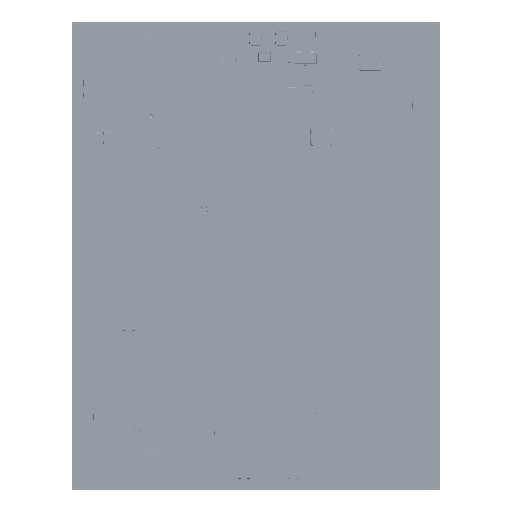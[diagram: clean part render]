
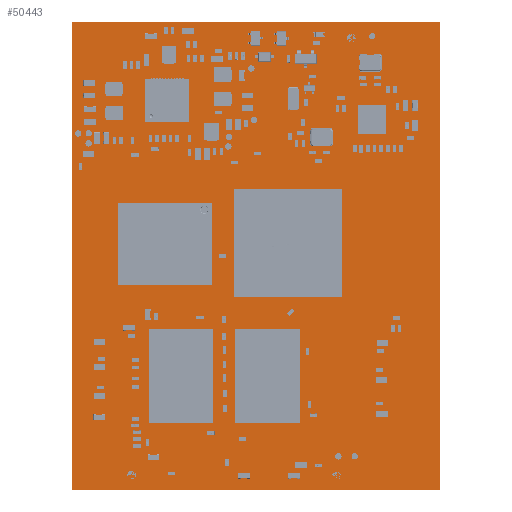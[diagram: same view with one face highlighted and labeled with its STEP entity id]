
A CAD part, top view. The second image highlights one B-rep face of the part: STEP entity #50443.
In plain terms, the highlighted planar face has unit normal (0, 0, 1).
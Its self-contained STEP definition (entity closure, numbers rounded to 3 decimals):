
#30057=FACE_OUTER_BOUND($,#35232,.F.);
#35232=EDGE_LOOP($,(#55668,#55669,#55670,#55671));
#40889=AXIS2_PLACEMENT_3D($,#140353,#119813,$);
#47494=PLANE($,#40889);
#50443=ADVANCED_FACE($,(#30057),#47494,.T.);
#55668=ORIENTED_EDGE($,*,*,#81082,.T.);
#55669=ORIENTED_EDGE($,*,*,#81083,.T.);
#55670=ORIENTED_EDGE($,*,*,#81084,.T.);
#55671=ORIENTED_EDGE($,*,*,#81085,.T.);
#81082=EDGE_CURVE($,#109868,#109869,#101830,.T.);
#81083=EDGE_CURVE($,#109869,#109870,#101831,.T.);
#81084=EDGE_CURVE($,#109870,#109871,#101832,.T.);
#81085=EDGE_CURVE($,#109871,#109868,#101833,.T.);
#93801=VECTOR($,#119845,65.005);
#93802=VECTOR($,#119846,50.995);
#93803=VECTOR($,#119847,65.005);
#93804=VECTOR($,#119848,50.995);
#101830=LINE($,#140352,#93801);
#101831=LINE($,#140353,#93802);
#101832=LINE($,#140354,#93803);
#101833=LINE($,#140355,#93804);
#109868=VERTEX_POINT($,#140352);
#109869=VERTEX_POINT($,#140353);
#109870=VERTEX_POINT($,#140354);
#109871=VERTEX_POINT($,#140355);
#119813=DIRECTION($,(0.,0.,1.));
#119845=DIRECTION($,(0.,-1.,0.));
#119846=DIRECTION($,(-1.,0.,0.));
#119847=DIRECTION($,(0.,1.,0.));
#119848=DIRECTION($,(1.,0.,0.));
#140352=CARTESIAN_POINT('',(50.995,65.005,0.001));
#140353=CARTESIAN_POINT('',(50.995,0.,0.001));
#140354=CARTESIAN_POINT('',(0.,0.,0.001));
#140355=CARTESIAN_POINT('',(0.,65.005,0.001));
